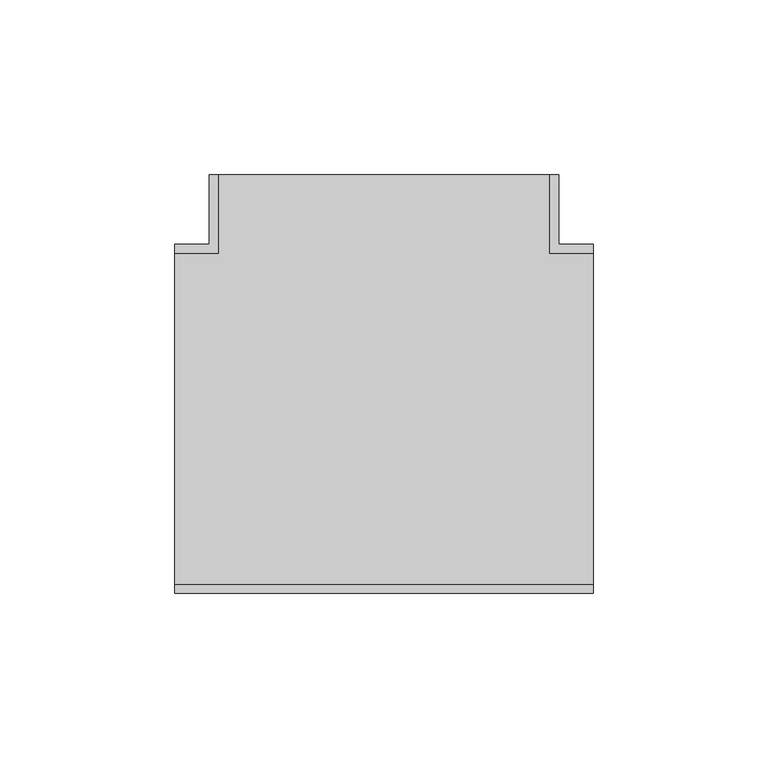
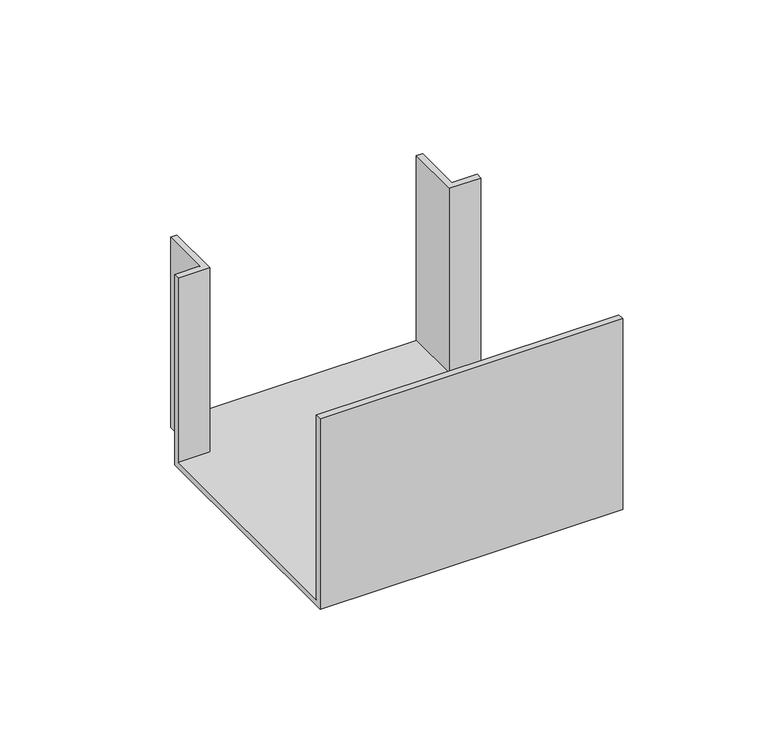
"""IFC4 building model written with IfcOpenShell, lengths in millimetres: cable carrier fitting geometry, КНС_ТройникNTAN_ILC_DKC : Тройник/отвод."""

from ifc_helpers import new_model, si_unit, origin, place, context, project, spatial, faceted_brep, source, transform, mapped, element, save


def cable_carrier_fitting_25b4d83d(model_context):
    return source(origin(), model_context, "Body", "Brep", [
        faceted_brep([(60.0, -47.5, -37.5), (60.0, 47.5, -37.5), (47.5, 47.5, -37.5), (47.5, 70.0, -37.5), (-47.5, 70.0, -37.5), (-47.5, 47.5, -37.5), (-60.0, 47.5, -37.5), (-60.0, -47.5, -37.5), (60.0, -50.0, -40.0), (-60.0, -50.0, -40.0), (-60.0, 50.0, -40.0), (-50.0, 50.0, -40.0), (-50.0, 70.0, -40.0), (50.0, 70.0, -40.0), (50.0, 50.0, -40.0), (60.0, 50.0, -40.0), (60.0, 50.0, 40.0), (60.0, 47.5, 40.0), (60.0, -47.5, 40.0), (60.0, -50.0, 40.0), (50.0, 50.0, 40.0), (50.0, 70.0, 40.0), (-50.0, 70.0, 40.0), (-47.5, 70.0, 40.0), (47.5, 70.0, 40.0), (-50.0, 50.0, 40.0), (-60.0, 50.0, 40.0), (-60.0, -50.0, 40.0), (-60.0, -47.5, 40.0), (-60.0, 47.5, 40.0), (47.5, 47.5, 40.0), (-47.5, 47.5, 40.0)], [[[0, 1, 2, 3, 4, 5, 6, 7]], [[8, 9, 10, 11, 12, 13, 14, 15]], [[8, 15, 16, 17, 1, 0, 18, 19]], [[16, 15, 14, 20]], [[20, 14, 13, 21]], [[21, 13, 12, 22, 23, 4, 3, 24]], [[22, 12, 11, 25]], [[25, 11, 10, 26]], [[26, 10, 9, 27, 28, 7, 6, 29]], [[27, 9, 8, 19]], [[20, 21, 24, 30, 17, 16]], [[25, 26, 29, 31, 23, 22]], [[27, 19, 18, 28]], [[31, 29, 6, 5]], [[23, 31, 5, 4]], [[30, 24, 3, 2]], [[17, 30, 2, 1]], [[28, 18, 0, 7]]]),
    ])


if __name__ == "__main__":
    model = new_model("IFC4")
    model_context = context("Model", 3, world=origin())
    ifc_project = project(units=[si_unit("LENGTHUNIT", "METRE", prefix="MILLI")], contexts=[model_context])
    site = spatial("IfcSite", under=ifc_project)
    building = spatial("IfcBuilding", under=site)
    placement = place(None, origin())
    cable_carrier_fitting_shape = cable_carrier_fitting_25b4d83d(model_context)
    element("IfcCableCarrierFitting", 1, ObjectType="КНС_ТройникNTAN_ILC_DKC : Тройник/отвод", at=placement, inside=building, context=model_context, shape_type="MappedRepresentation", body=[
        mapped(cable_carrier_fitting_shape, transform((0.0, 0.0, 0.0), x_axis=(1.0, 0.0, 0.0), y_axis=(0.0, 1.0, 0.0), z_axis=(0.0, 0.0, 1.0))),
    ])
    save(model, "model.ifc")
